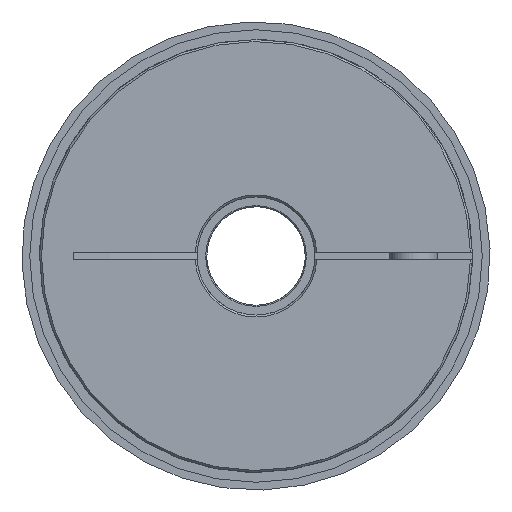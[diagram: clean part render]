
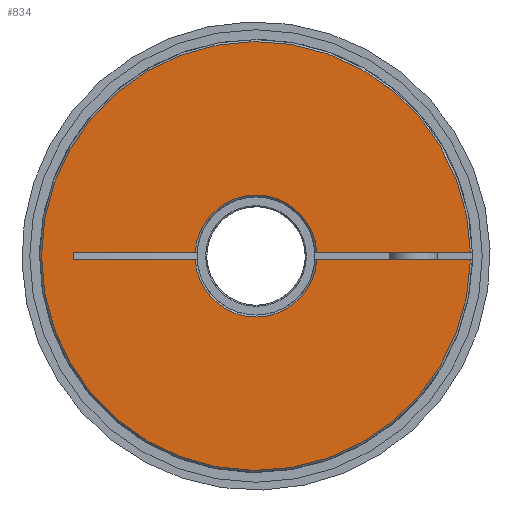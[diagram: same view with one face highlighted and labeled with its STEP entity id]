
A CAD part, left-side view. The second image highlights one B-rep face of the part: STEP entity #834.
In plain terms, the highlighted planar face has unit normal (-1, 0, 0).
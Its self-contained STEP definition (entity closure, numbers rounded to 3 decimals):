
#834 = ADVANCED_FACE( 'NONE', ( #1698 ), #1699, .F. );
#1698 = FACE_OUTER_BOUND( '', #2515, .T. );
#1699 = PLANE( '', #2516 );
#2515 = EDGE_LOOP( '', ( #3925, #3926, #3927, #3928, #3929, #3930, #3931, #3932 ) );
#2516 = AXIS2_PLACEMENT_3D( '', #3933, #3934, #3935 );
#3925 = ORIENTED_EDGE( '', *, *, #4503, .T. );
#3926 = ORIENTED_EDGE( '', *, *, #4481, .T. );
#3927 = ORIENTED_EDGE( '', *, *, #4357, .T. );
#3928 = ORIENTED_EDGE( '', *, *, #4531, .T. );
#3929 = ORIENTED_EDGE( '', *, *, #4429, .F. );
#3930 = ORIENTED_EDGE( '', *, *, #4558, .T. );
#3931 = ORIENTED_EDGE( '', *, *, #4229, .F. );
#3932 = ORIENTED_EDGE( '', *, *, #4393, .T. );
#3933 = CARTESIAN_POINT( '', ( 0., 15., 0. ) );
#3934 = DIRECTION( '', ( 1., 0., 0. ) );
#3935 = DIRECTION( '', ( 0., 1., 0. ) );
#4229 = EDGE_CURVE( 'NONE', #4881, #4882, #4883, .F. );
#4357 = EDGE_CURVE( 'NONE', #5068, #5069, #5070, .T. );
#4393 = EDGE_CURVE( 'NONE', #4881, #5121, #5123, .T. );
#4429 = EDGE_CURVE( 'NONE', #5169, #5171, #5172, .F. );
#4481 = EDGE_CURVE( 'NONE', #5243, #5068, #5244, .T. );
#4503 = EDGE_CURVE( 'NONE', #5121, #5243, #5268, .T. );
#4531 = EDGE_CURVE( 'NONE', #5069, #5171, #5302, .F. );
#4558 = EDGE_CURVE( 'NONE', #5169, #4882, #5330, .T. );
#4881 = VERTEX_POINT( 'NONE', #6073 );
#4882 = VERTEX_POINT( 'NONE', #6074 );
#4883 = LINE( '', #6075, #6076 );
#5068 = VERTEX_POINT( 'NONE', #6291 );
#5069 = VERTEX_POINT( 'NONE', #6292 );
#5070 = LINE( '', #6293, #6294 );
#5121 = VERTEX_POINT( 'NONE', #6544 );
#5123 = LINE( '', #6546, #6547 );
#5169 = VERTEX_POINT( 'NONE', #6601 );
#5171 = VERTEX_POINT( 'NONE', #6606 );
#5172 = LINE( '', #6607, #6608 );
#5243 = VERTEX_POINT( 'NONE', #6690 );
#5244 = CIRCLE( '', #6691, 15.5 );
#5268 = LINE( '', #6720, #6721 );
#5302 = CIRCLE( '', #6761, 54.5 );
#5330 = CIRCLE( '', #6795, 15.5 );
#6073 = CARTESIAN_POINT( '', ( 0., 46.303, -1. ) );
#6074 = CARTESIAN_POINT( '', ( 0., 15.468, -1. ) );
#6075 = CARTESIAN_POINT( '', ( 0., -15., -1. ) );
#6076 = VECTOR( '', #7089, 1000. );
#6291 = CARTESIAN_POINT( '', ( 0., -15.468, 1. ) );
#6292 = CARTESIAN_POINT( '', ( 0., -54.491, 1. ) );
#6293 = CARTESIAN_POINT( '', ( 0., 15., 1. ) );
#6294 = VECTOR( '', #7288, 1000. );
#6544 = CARTESIAN_POINT( '', ( 0., 46.303, 1. ) );
#6546 = CARTESIAN_POINT( '', ( 0., 46.303, -1. ) );
#6547 = VECTOR( '', #7327, 1000. );
#6601 = CARTESIAN_POINT( '', ( 0., -15.468, -1. ) );
#6606 = CARTESIAN_POINT( '', ( 0., -54.491, -1. ) );
#6607 = CARTESIAN_POINT( '', ( 0., -15., -1. ) );
#6608 = VECTOR( '', #7363, 1000. );
#6690 = CARTESIAN_POINT( '', ( 0., 15.468, 1. ) );
#6691 = AXIS2_PLACEMENT_3D( '', #7429, #7430, #7431 );
#6720 = CARTESIAN_POINT( '', ( 0., 15., 1. ) );
#6721 = VECTOR( '', #7449, 1000. );
#6761 = AXIS2_PLACEMENT_3D( '', #7477, #7478, #7479 );
#6795 = AXIS2_PLACEMENT_3D( '', #7489, #7490, #7491 );
#7089 = DIRECTION( '', ( 0., 1., 0. ) );
#7288 = DIRECTION( '', ( 0., -1., 0. ) );
#7327 = DIRECTION( '', ( 0., 0., 1. ) );
#7363 = DIRECTION( '', ( 0., 1., 0. ) );
#7429 = CARTESIAN_POINT( '', ( 0., 0., 0. ) );
#7430 = DIRECTION( '', ( 1., 0., 0. ) );
#7431 = DIRECTION( '', ( 0., 0., -1. ) );
#7449 = DIRECTION( '', ( 0., -1., 0. ) );
#7477 = CARTESIAN_POINT( '', ( 0., 0., 0. ) );
#7478 = DIRECTION( '', ( 1., 0., 0. ) );
#7479 = DIRECTION( '', ( 0., 0., -1. ) );
#7489 = CARTESIAN_POINT( '', ( 0., 0., 0. ) );
#7490 = DIRECTION( '', ( 1., 0., 0. ) );
#7491 = DIRECTION( '', ( 0., 0., -1. ) );
